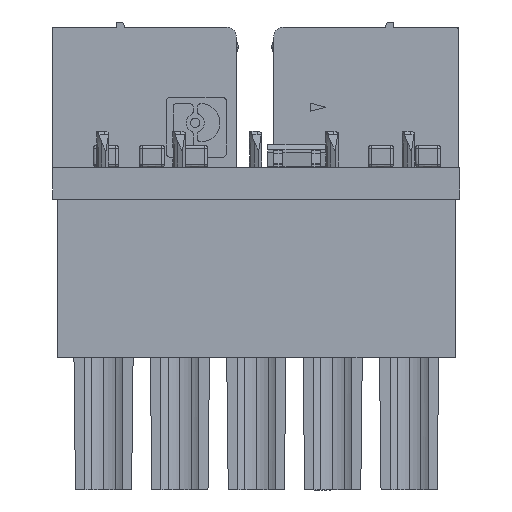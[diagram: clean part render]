
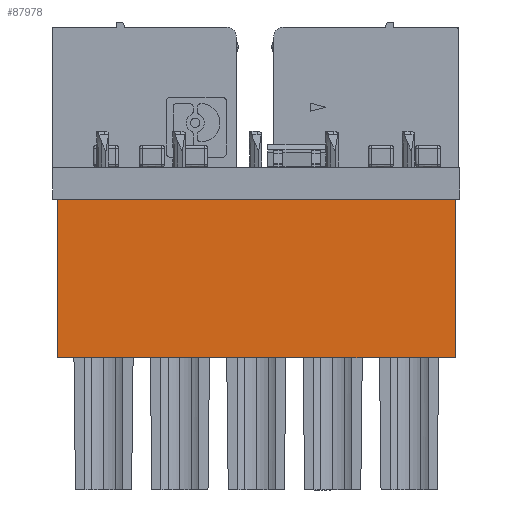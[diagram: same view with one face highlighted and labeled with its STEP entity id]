
A CAD part, left-side view. The second image highlights one B-rep face of the part: STEP entity #87978.
In plain terms, the highlighted planar face has unit normal (-1, 0, 0).
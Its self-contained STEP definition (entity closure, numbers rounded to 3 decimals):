
#87978 = ADVANCED_FACE('',(#87979),#87992,.T.);
#87979 = FACE_BOUND('',#87980,.T.);
#87980 = EDGE_LOOP('',(#87981,#88002,#88016,#88030));
#87981 = ORIENTED_EDGE('',*,*,#87982,.T.);
#87982 = EDGE_CURVE('',#87983,#87985,#87987,.T.);
#87983 = VERTEX_POINT('',#87984);
#87984 = CARTESIAN_POINT('',(-3.425,0.,
    -9.921));
#87985 = VERTEX_POINT('',#87986);
#87986 = CARTESIAN_POINT('',(-3.425,0.,
    9.919));
#87987 = SURFACE_CURVE('',#87988,(#87991),.PCURVE_S1.);
#87988 = B_SPLINE_CURVE_WITH_KNOTS('',1,(#87989,#87990),.UNSPECIFIED.,
  .F.,.F.,(2,2),(0.,19.84),.PIECEWISE_BEZIER_KNOTS.);
#87989 = CARTESIAN_POINT('',(-3.425,0.,
    -9.921));
#87990 = CARTESIAN_POINT('',(-3.425,0.,
    9.919));
#87991 = PCURVE('',#87992,#87997);
#87992 = PLANE('',#87993);
#87993 = AXIS2_PLACEMENT_3D('',#87994,#87995,#87996);
#87994 = CARTESIAN_POINT('',(-3.425,0.,
    9.919));
#87995 = DIRECTION('',(-1.,0.,0.));
#87996 = DIRECTION('',(0.,0.,-1.));
#87997 = DEFINITIONAL_REPRESENTATION('',(#87998),#88001);
#87998 = B_SPLINE_CURVE_WITH_KNOTS('',1,(#87999,#88000),.UNSPECIFIED.,
  .F.,.F.,(2,2),(0.,19.84),.PIECEWISE_BEZIER_KNOTS.);
#87999 = CARTESIAN_POINT('',(19.84,0.));
#88000 = CARTESIAN_POINT('',(0.,0.));
#88001 = ( GEOMETRIC_REPRESENTATION_CONTEXT(2) 
PARAMETRIC_REPRESENTATION_CONTEXT() REPRESENTATION_CONTEXT('2D SPACE',''
  ) );
#88002 = ORIENTED_EDGE('',*,*,#88003,.F.);
#88003 = EDGE_CURVE('',#88004,#87985,#88006,.T.);
#88004 = VERTEX_POINT('',#88005);
#88005 = CARTESIAN_POINT('',(-3.425,7.9,9.919));
#88006 = SURFACE_CURVE('',#88007,(#88010),.PCURVE_S1.);
#88007 = B_SPLINE_CURVE_WITH_KNOTS('',1,(#88008,#88009),.UNSPECIFIED.,
  .F.,.F.,(2,2),(0.,7.9),.PIECEWISE_BEZIER_KNOTS.);
#88008 = CARTESIAN_POINT('',(-3.425,7.9,9.919));
#88009 = CARTESIAN_POINT('',(-3.425,0.,
    9.919));
#88010 = PCURVE('',#87992,#88011);
#88011 = DEFINITIONAL_REPRESENTATION('',(#88012),#88015);
#88012 = B_SPLINE_CURVE_WITH_KNOTS('',1,(#88013,#88014),.UNSPECIFIED.,
  .F.,.F.,(2,2),(0.,7.9),.PIECEWISE_BEZIER_KNOTS.);
#88013 = CARTESIAN_POINT('',(0.,-7.9));
#88014 = CARTESIAN_POINT('',(0.,0.));
#88015 = ( GEOMETRIC_REPRESENTATION_CONTEXT(2) 
PARAMETRIC_REPRESENTATION_CONTEXT() REPRESENTATION_CONTEXT('2D SPACE',''
  ) );
#88016 = ORIENTED_EDGE('',*,*,#88017,.F.);
#88017 = EDGE_CURVE('',#88018,#88004,#88020,.T.);
#88018 = VERTEX_POINT('',#88019);
#88019 = CARTESIAN_POINT('',(-3.425,7.9,-9.921));
#88020 = SURFACE_CURVE('',#88021,(#88024),.PCURVE_S1.);
#88021 = B_SPLINE_CURVE_WITH_KNOTS('',1,(#88022,#88023),.UNSPECIFIED.,
  .F.,.F.,(2,2),(-19.84,0.),.PIECEWISE_BEZIER_KNOTS.);
#88022 = CARTESIAN_POINT('',(-3.425,7.9,-9.921));
#88023 = CARTESIAN_POINT('',(-3.425,7.9,9.919));
#88024 = PCURVE('',#87992,#88025);
#88025 = DEFINITIONAL_REPRESENTATION('',(#88026),#88029);
#88026 = B_SPLINE_CURVE_WITH_KNOTS('',1,(#88027,#88028),.UNSPECIFIED.,
  .F.,.F.,(2,2),(-19.84,0.),.PIECEWISE_BEZIER_KNOTS.);
#88027 = CARTESIAN_POINT('',(19.84,-7.9));
#88028 = CARTESIAN_POINT('',(0.,-7.9));
#88029 = ( GEOMETRIC_REPRESENTATION_CONTEXT(2) 
PARAMETRIC_REPRESENTATION_CONTEXT() REPRESENTATION_CONTEXT('2D SPACE',''
  ) );
#88030 = ORIENTED_EDGE('',*,*,#88031,.T.);
#88031 = EDGE_CURVE('',#88018,#87983,#88032,.T.);
#88032 = SURFACE_CURVE('',#88033,(#88036),.PCURVE_S1.);
#88033 = B_SPLINE_CURVE_WITH_KNOTS('',1,(#88034,#88035),.UNSPECIFIED.,
  .F.,.F.,(2,2),(0.,7.9),.PIECEWISE_BEZIER_KNOTS.);
#88034 = CARTESIAN_POINT('',(-3.425,7.9,-9.921));
#88035 = CARTESIAN_POINT('',(-3.425,0.,
    -9.921));
#88036 = PCURVE('',#87992,#88037);
#88037 = DEFINITIONAL_REPRESENTATION('',(#88038),#88041);
#88038 = B_SPLINE_CURVE_WITH_KNOTS('',1,(#88039,#88040),.UNSPECIFIED.,
  .F.,.F.,(2,2),(0.,7.9),.PIECEWISE_BEZIER_KNOTS.);
#88039 = CARTESIAN_POINT('',(19.84,-7.9));
#88040 = CARTESIAN_POINT('',(19.84,0.));
#88041 = ( GEOMETRIC_REPRESENTATION_CONTEXT(2) 
PARAMETRIC_REPRESENTATION_CONTEXT() REPRESENTATION_CONTEXT('2D SPACE',''
  ) );
